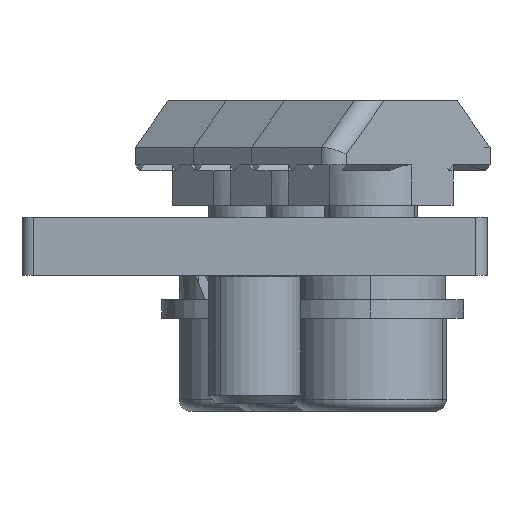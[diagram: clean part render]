
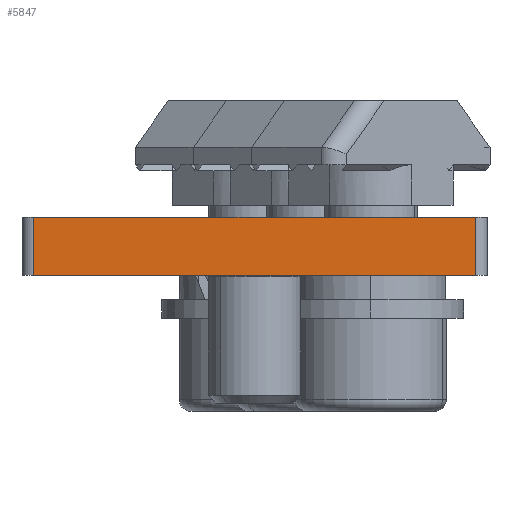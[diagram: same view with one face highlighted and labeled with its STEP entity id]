
A CAD part, left-side view. The second image highlights one B-rep face of the part: STEP entity #5847.
In plain terms, the highlighted planar face has unit normal (-1, 0, 0).
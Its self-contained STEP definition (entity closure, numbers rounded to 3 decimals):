
#382 = LINE ( 'NONE', #1319, #384 ) ;
#384 = VECTOR ( 'NONE', #1320, 1000. ) ;
#389 = LINE ( 'NONE', #572, #392 ) ;
#392 = VECTOR ( 'NONE', #573, 1000. ) ;
#443 = LINE ( 'NONE', #652, #446 ) ;
#446 = VECTOR ( 'NONE', #653, 1000. ) ;
#572 = CARTESIAN_POINT ( 'NONE',  ( -104.209, 18.561, -12.494 ) ) ;
#573 = DIRECTION ( 'NONE',  ( 0., -1., 0. ) ) ;
#652 = CARTESIAN_POINT ( 'NONE',  ( -104.209, -20.439, -7.494 ) ) ;
#653 = DIRECTION ( 'NONE',  ( 0., 0., 1. ) ) ;
#1319 = CARTESIAN_POINT ( 'NONE',  ( -104.209, 18.561, -7.494 ) ) ;
#1320 = DIRECTION ( 'NONE',  ( 0., -1., 0. ) ) ;
#1383 = AXIS2_PLACEMENT_3D ( 'NONE', #4586, #4592, #4593 ) ;
#1580 = FACE_OUTER_BOUND ( 'NONE', #4024, .T. ) ;
#3197 = EDGE_CURVE ( 'NONE', #3764, #6146, #6961, .T. ) ;
#3764 = VERTEX_POINT ( 'NONE', #7493 ) ;
#4024 = EDGE_LOOP ( 'NONE', ( #5580, #5588, #5581, #5567 ) ) ;
#4586 = CARTESIAN_POINT ( 'NONE',  ( -104.209, 18.561, -7.494 ) ) ;
#4590 = PLANE ( 'NONE',  #1383 ) ;
#4592 = DIRECTION ( 'NONE',  ( 1., 0., 0. ) ) ;
#4593 = DIRECTION ( 'NONE',  ( 0., 0., -1. ) ) ;
#4839 = CARTESIAN_POINT ( 'NONE',  ( -104.209, 17.561, -12.494 ) ) ;
#4846 = CARTESIAN_POINT ( 'NONE',  ( -104.209, -20.439, -7.494 ) ) ;
#4853 = CARTESIAN_POINT ( 'NONE',  ( -104.209, -20.439, -12.494 ) ) ;
#5567 = ORIENTED_EDGE ( 'NONE', *, *, #3197, .T. ) ;
#5580 = ORIENTED_EDGE ( 'NONE', *, *, #7261, .T. ) ;
#5581 = ORIENTED_EDGE ( 'NONE', *, *, #7256, .F. ) ;
#5588 = ORIENTED_EDGE ( 'NONE', *, *, #7295, .T. ) ;
#5847 = ADVANCED_FACE ( 'NONE', ( #1580 ), #4590, .F. ) ;
#6146 = VERTEX_POINT ( 'NONE', #4839 ) ;
#6153 = VERTEX_POINT ( 'NONE', #4846 ) ;
#6160 = VERTEX_POINT ( 'NONE', #4853 ) ;
#6961 = LINE ( 'NONE', #7907, #6966 ) ;
#6966 = VECTOR ( 'NONE', #7913, 1000. ) ;
#7256 = EDGE_CURVE ( 'NONE', #3764, #6153, #382, .T. ) ;
#7261 = EDGE_CURVE ( 'NONE', #6146, #6160, #389, .T. ) ;
#7295 = EDGE_CURVE ( 'NONE', #6160, #6153, #443, .T. ) ;
#7493 = CARTESIAN_POINT ( 'NONE',  ( -104.209, 17.561, -7.494 ) ) ;
#7907 = CARTESIAN_POINT ( 'NONE',  ( -104.209, 17.561, -7.494 ) ) ;
#7913 = DIRECTION ( 'NONE',  ( 0., 0., -1. ) ) ;
